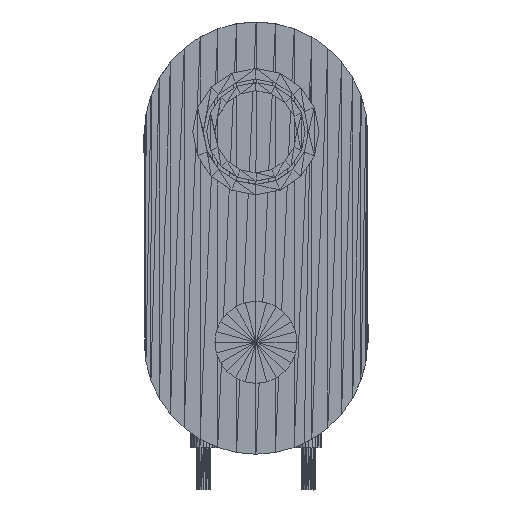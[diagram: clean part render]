
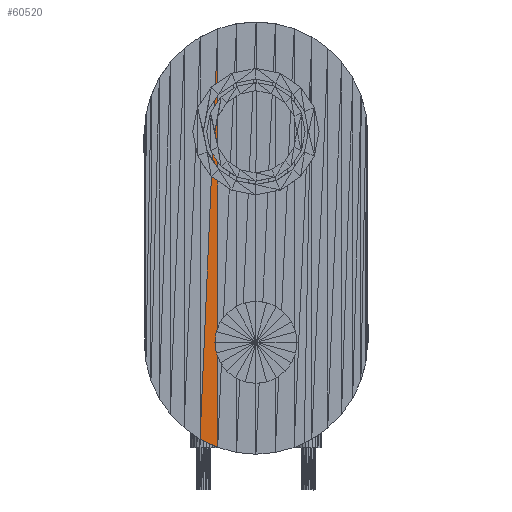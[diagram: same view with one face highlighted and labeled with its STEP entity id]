
A CAD part, front view. The second image highlights one B-rep face of the part: STEP entity #60520.
In plain terms, the highlighted planar face has unit normal (-0.002, -1, -0.001).
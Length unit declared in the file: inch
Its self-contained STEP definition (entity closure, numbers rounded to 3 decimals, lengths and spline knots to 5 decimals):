
#60489=CARTESIAN_POINT('',(-0.09042,-0.05052,0.99458));
#60490=DIRECTION('',(0.002,1.,0.001));
#60491=DIRECTION('',(1.,-0.002,0.));
#60492=AXIS2_PLACEMENT_3D('',#60489,#60490,#60491);
#60493=PLANE('',#60492);
#60494=CARTESIAN_POINT('',(-0.13275,-0.04959,0.0206));
#60495=VERTEX_POINT('',#60494);
#60496=CARTESIAN_POINT('',(-0.09042,-0.05052,0.99458));
#60497=VERTEX_POINT('',#60496);
#60498=CARTESIAN_POINT('',(-0.13275,-0.04959,0.0206));
#60499=DIRECTION('',(0.043,-0.001,0.999));
#60500=VECTOR('',#60499,0.97491);
#60501=LINE('',#60498,#60500);
#60502=EDGE_CURVE('',#60495,#60497,#60501,.T.);
#60503=ORIENTED_EDGE('',*,*,#60502,.F.);
#60504=CARTESIAN_POINT('',(-0.09087,-0.04966,0.00103));
#60505=VERTEX_POINT('',#60504);
#60506=CARTESIAN_POINT('',(-0.09087,-0.04966,0.00103));
#60507=DIRECTION('',(-0.906,0.002,0.423));
#60508=VECTOR('',#60507,0.04622);
#60509=LINE('',#60506,#60508);
#60510=EDGE_CURVE('',#60505,#60495,#60509,.T.);
#60511=ORIENTED_EDGE('',*,*,#60510,.F.);
#60512=CARTESIAN_POINT('',(-0.09087,-0.04966,0.00103));
#60513=DIRECTION('',(0.,-0.001,1.));
#60514=VECTOR('',#60513,0.99355);
#60515=LINE('',#60512,#60514);
#60516=EDGE_CURVE('',#60505,#60497,#60515,.T.);
#60517=ORIENTED_EDGE('',*,*,#60516,.T.);
#60518=EDGE_LOOP('',(#60503,#60511,#60517));
#60519=FACE_BOUND('',#60518,.T.);
#60520=ADVANCED_FACE('',(#60519),#60493,.F.);
